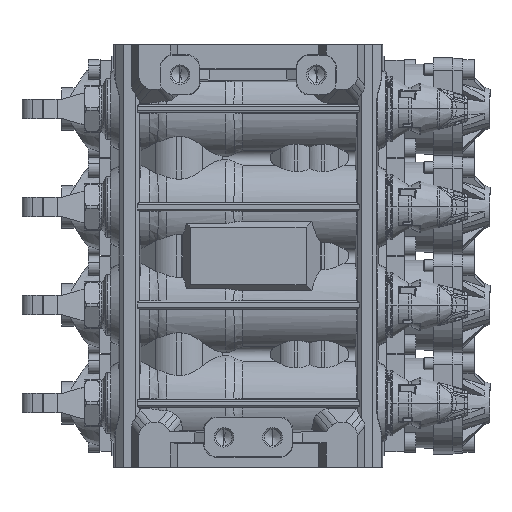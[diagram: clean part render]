
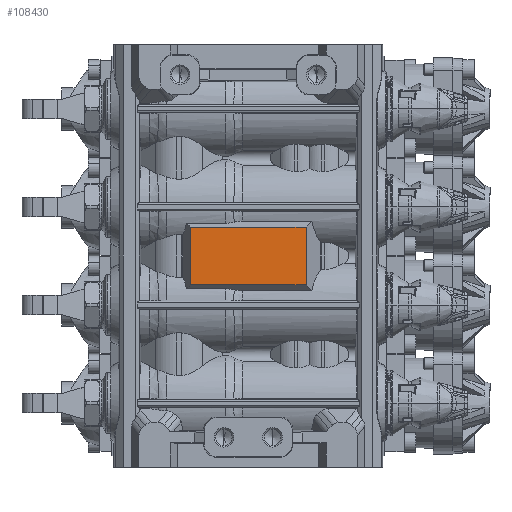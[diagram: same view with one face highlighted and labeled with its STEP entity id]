
A CAD part, front view. The second image highlights one B-rep face of the part: STEP entity #108430.
In plain terms, the highlighted planar face has unit normal (0, -1, 0).
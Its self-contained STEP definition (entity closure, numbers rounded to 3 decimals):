
#6305 = DIRECTION ( 'NONE',  ( -1., 0., 0. ) ) ;
#12664 = LINE ( 'NONE', #42412, #163087 ) ;
#31727 = EDGE_CURVE ( 'NONE', #210655, #189856, #88341, .T. ) ;
#42412 = CARTESIAN_POINT ( 'NONE',  ( -29.674, -44., 14.837 ) ) ;
#43213 = VECTOR ( 'NONE', #155064, 1000. ) ;
#47362 = VERTEX_POINT ( 'NONE', #252895 ) ;
#48245 = CARTESIAN_POINT ( 'NONE',  ( -29.674, -44., -14.837 ) ) ;
#51819 = CARTESIAN_POINT ( 'NONE',  ( -29.674, -44., -14.837 ) ) ;
#67797 = LINE ( 'NONE', #75211, #43213 ) ;
#71379 = EDGE_CURVE ( 'NONE', #189856, #119738, #12664, .T. ) ;
#71514 = DIRECTION ( 'NONE',  ( 0., 0., -1. ) ) ;
#71904 = ORIENTED_EDGE ( 'NONE', *, *, #236733, .F. ) ;
#75211 = CARTESIAN_POINT ( 'NONE',  ( -29.674, -44., 14.837 ) ) ;
#84073 = ORIENTED_EDGE ( 'NONE', *, *, #201808, .F. ) ;
#84339 = CARTESIAN_POINT ( 'NONE',  ( -29.674, -44., 14.837 ) ) ;
#88341 = LINE ( 'NONE', #48245, #220435 ) ;
#100458 = CARTESIAN_POINT ( 'NONE',  ( 29.674, -44., -14.837 ) ) ;
#106446 = EDGE_LOOP ( 'NONE', ( #191488, #168840, #84073, #71904 ) ) ;
#108430 = ADVANCED_FACE ( 'NONE', ( #129972 ), #169356, .T. ) ;
#119738 = VERTEX_POINT ( 'NONE', #84339 ) ;
#128723 = AXIS2_PLACEMENT_3D ( 'NONE', #51819, #189053, #71514 ) ;
#129972 = FACE_OUTER_BOUND ( 'NONE', #106446, .T. ) ;
#145468 = CARTESIAN_POINT ( 'NONE',  ( 29.674, -44., 14.837 ) ) ;
#155064 = DIRECTION ( 'NONE',  ( 1., 0., 0. ) ) ;
#159105 = DIRECTION ( 'NONE',  ( 0., 0., 1. ) ) ;
#163087 = VECTOR ( 'NONE', #159105, 1000. ) ;
#168840 = ORIENTED_EDGE ( 'NONE', *, *, #31727, .F. ) ;
#169356 = PLANE ( 'NONE',  #128723 ) ;
#189053 = DIRECTION ( 'NONE',  ( 0., -1., 0. ) ) ;
#189856 = VERTEX_POINT ( 'NONE', #208298 ) ;
#191488 = ORIENTED_EDGE ( 'NONE', *, *, #71379, .F. ) ;
#201808 = EDGE_CURVE ( 'NONE', #47362, #210655, #236890, .T. ) ;
#208298 = CARTESIAN_POINT ( 'NONE',  ( -29.674, -44., -14.837 ) ) ;
#210655 = VERTEX_POINT ( 'NONE', #100458 ) ;
#220435 = VECTOR ( 'NONE', #6305, 1000. ) ;
#230708 = VECTOR ( 'NONE', #244943, 1000. ) ;
#236733 = EDGE_CURVE ( 'NONE', #119738, #47362, #67797, .T. ) ;
#236890 = LINE ( 'NONE', #145468, #230708 ) ;
#244943 = DIRECTION ( 'NONE',  ( 0., 0., -1. ) ) ;
#252895 = CARTESIAN_POINT ( 'NONE',  ( 29.674, -44., 14.837 ) ) ;
